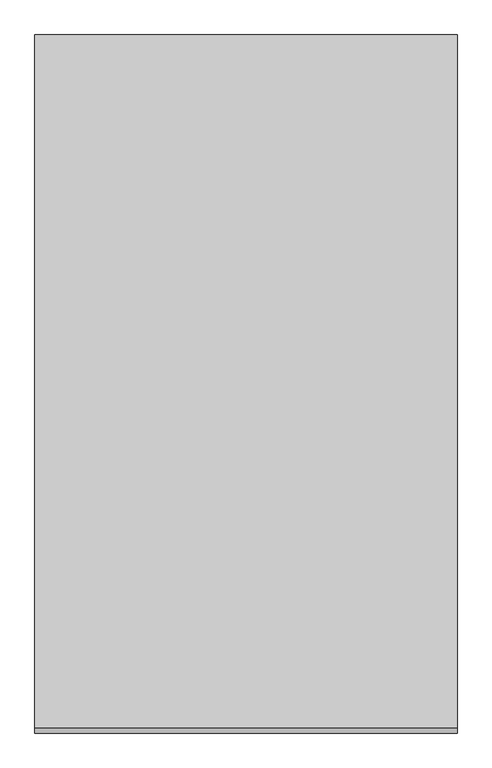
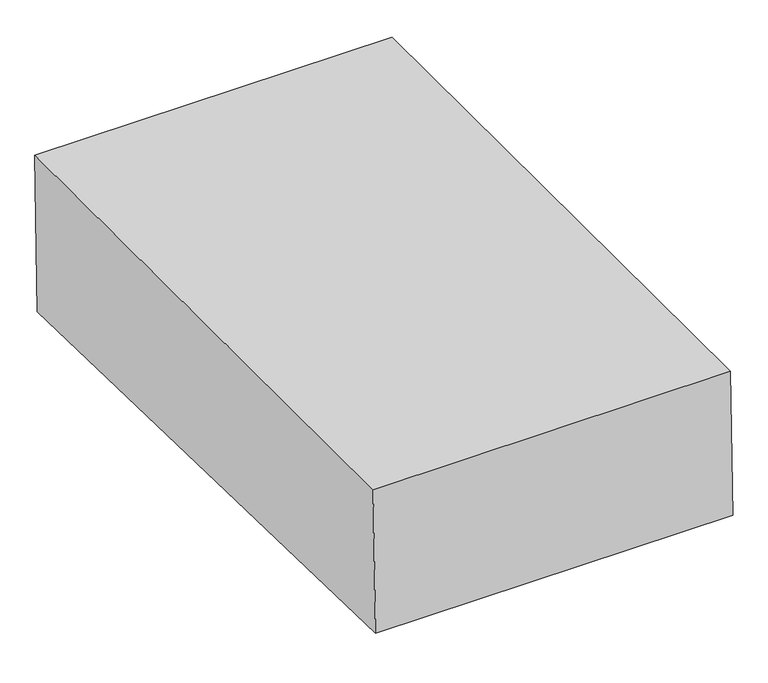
"""IFC4 building model written with IfcOpenShell, lengths in millimetres: proxy geometry, Excavation FamilySP : Excavation FamilySP."""

from ifc_helpers import new_model, si_unit, frame, origin, place, context, project, spatial, polyline, outline, extrude, source, transform, mapped, element, save


def generic_models_9546db6e(model_context):
    return source(origin(), model_context, "Body", "SweptSolid", [
        extrude(outline(polyline([(36.4630027, 1387.3565201), (0.0, 0.0), (-4998.2739957, 131.3664335), (-4964.7354591, 1407.4518915), (36.4630027, 1387.3565201)])), frame((-1524.0, 0.0, 0.0), z_axis=(1.0, 0.0, 0.0), x_axis=(0.0, 1.0, 0.0)), (0.0, 0.0, 1.0), 3048.0),
    ])


if __name__ == "__main__":
    model = new_model("IFC4")
    model_context = context("Model", 3, world=origin())
    ifc_project = project(units=[si_unit("LENGTHUNIT", "METRE", prefix="MILLI")], contexts=[model_context])
    site = spatial("IfcSite", under=ifc_project)
    building = spatial("IfcBuilding", under=site)
    placement = place(None, origin())
    generic_models_shape = generic_models_9546db6e(model_context)
    element("IfcBuildingElementProxy", 1, Name="Excavation FamilySP : Excavation FamilySP", ObjectType="Excavation FamilySP : Excavation FamilySP", at=placement, inside=building, context=model_context, shape_type="MappedRepresentation", body=[
        mapped(generic_models_shape, transform((0.0, 0.0, 0.0), x_axis=(1.0, 0.0, 0.0), y_axis=(0.0, 1.0, 0.0), z_axis=(0.0, 0.0, 1.0))),
    ])
    save(model, "model.ifc")
